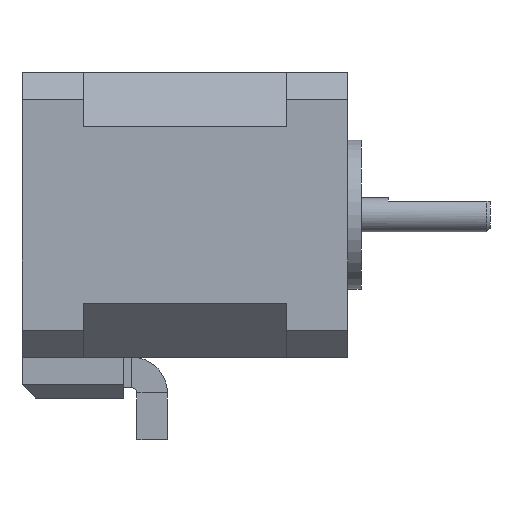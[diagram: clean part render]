
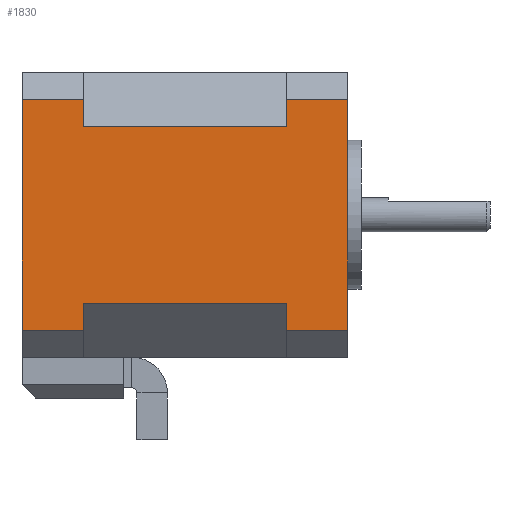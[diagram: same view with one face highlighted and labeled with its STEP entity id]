
A CAD part, left-side view. The second image highlights one B-rep face of the part: STEP entity #1830.
In plain terms, the highlighted planar face has unit normal (-1, 0, 0).
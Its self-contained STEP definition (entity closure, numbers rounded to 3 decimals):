
#45 = CARTESIAN_POINT ( 'NONE',  ( -21., 15., -13. ) ) ;
#81 = CARTESIAN_POINT ( 'NONE',  ( -21., 15., 17. ) ) ;
#102 = ORIENTED_EDGE ( 'NONE', *, *, #417, .T. ) ;
#110 = AXIS2_PLACEMENT_3D ( 'NONE', #280, #744, #2002 ) ;
#143 = CARTESIAN_POINT ( 'NONE',  ( -21., 15., 13. ) ) ;
#145 = VERTEX_POINT ( 'NONE', #339 ) ;
#173 = VECTOR ( 'NONE', #945, 1000. ) ;
#211 = CARTESIAN_POINT ( 'NONE',  ( -21., -15., -13. ) ) ;
#230 = CARTESIAN_POINT ( 'NONE',  ( -21., -24., -21. ) ) ;
#237 = VECTOR ( 'NONE', #1208, 1000. ) ;
#279 = EDGE_CURVE ( 'NONE', #898, #1161, #516, .T. ) ;
#280 = CARTESIAN_POINT ( 'NONE',  ( -21., 24., -21. ) ) ;
#286 = CARTESIAN_POINT ( 'NONE',  ( -21., -15., -21. ) ) ;
#339 = CARTESIAN_POINT ( 'NONE',  ( -21., -15., -17. ) ) ;
#358 = LINE ( 'NONE', #696, #1042 ) ;
#363 = CARTESIAN_POINT ( 'NONE',  ( -21., 24., 17. ) ) ;
#383 = EDGE_CURVE ( 'NONE', #1615, #1933, #1638, .T. ) ;
#407 = ORIENTED_EDGE ( 'NONE', *, *, #383, .T. ) ;
#417 = EDGE_CURVE ( 'NONE', #729, #1611, #594, .T. ) ;
#425 = FACE_OUTER_BOUND ( 'NONE', #1112, .T. ) ;
#440 = CARTESIAN_POINT ( 'NONE',  ( -21., -44.991, -17. ) ) ;
#451 = EDGE_CURVE ( 'NONE', #1240, #1027, #1542, .T. ) ;
#473 = LINE ( 'NONE', #1100, #173 ) ;
#499 = EDGE_CURVE ( 'NONE', #145, #1615, #1503, .T. ) ;
#516 = LINE ( 'NONE', #211, #1452 ) ;
#564 = EDGE_CURVE ( 'NONE', #1027, #729, #473, .T. ) ;
#594 = LINE ( 'NONE', #616, #237 ) ;
#600 = DIRECTION ( 'NONE',  ( 0., 0., 1. ) ) ;
#602 = CARTESIAN_POINT ( 'NONE',  ( -21., -15., 13. ) ) ;
#616 = CARTESIAN_POINT ( 'NONE',  ( -21., -44.991, 17. ) ) ;
#627 = VECTOR ( 'NONE', #600, 1000. ) ;
#633 = CARTESIAN_POINT ( 'NONE',  ( -21., 24., -17. ) ) ;
#634 = DIRECTION ( 'NONE',  ( 0., 0., 1. ) ) ;
#651 = CARTESIAN_POINT ( 'NONE',  ( -21., -15., -13. ) ) ;
#696 = CARTESIAN_POINT ( 'NONE',  ( -21., 15., -21. ) ) ;
#707 = DIRECTION ( 'NONE',  ( 0., 1., 0. ) ) ;
#728 = LINE ( 'NONE', #286, #627 ) ;
#729 = VERTEX_POINT ( 'NONE', #81 ) ;
#744 = DIRECTION ( 'NONE',  ( 1., 0., 0. ) ) ;
#764 = ORIENTED_EDGE ( 'NONE', *, *, #564, .T. ) ;
#779 = VECTOR ( 'NONE', #1188, 1000. ) ;
#807 = VERTEX_POINT ( 'NONE', #1664 ) ;
#829 = EDGE_CURVE ( 'NONE', #1240, #1715, #892, .T. ) ;
#844 = ORIENTED_EDGE ( 'NONE', *, *, #499, .T. ) ;
#881 = DIRECTION ( 'NONE',  ( 0., 1., 0. ) ) ;
#892 = LINE ( 'NONE', #1348, #1813 ) ;
#898 = VERTEX_POINT ( 'NONE', #651 ) ;
#911 = LINE ( 'NONE', #926, #1110 ) ;
#926 = CARTESIAN_POINT ( 'NONE',  ( -21., 24., -21. ) ) ;
#945 = DIRECTION ( 'NONE',  ( 0., 0., 1. ) ) ;
#1022 = CARTESIAN_POINT ( 'NONE',  ( -21., -24., 17. ) ) ;
#1027 = VERTEX_POINT ( 'NONE', #143 ) ;
#1042 = VECTOR ( 'NONE', #1154, 1000. ) ;
#1052 = CARTESIAN_POINT ( 'NONE',  ( -21., -9.343, -17. ) ) ;
#1100 = CARTESIAN_POINT ( 'NONE',  ( -21., 15., 13. ) ) ;
#1110 = VECTOR ( 'NONE', #1377, 1000. ) ;
#1112 = EDGE_LOOP ( 'NONE', ( #1493, #764, #102, #1930, #1405, #1876, #1505, #1129, #844, #407, #1123, #1676 ) ) ;
#1123 = ORIENTED_EDGE ( 'NONE', *, *, #1559, .F. ) ;
#1129 = ORIENTED_EDGE ( 'NONE', *, *, #1766, .F. ) ;
#1141 = CARTESIAN_POINT ( 'NONE',  ( -21., -24., -17. ) ) ;
#1154 = DIRECTION ( 'NONE',  ( 0., 0., 1. ) ) ;
#1161 = VERTEX_POINT ( 'NONE', #45 ) ;
#1186 = CARTESIAN_POINT ( 'NONE',  ( -21., -15., 17. ) ) ;
#1188 = DIRECTION ( 'NONE',  ( 0., -1., 0. ) ) ;
#1208 = DIRECTION ( 'NONE',  ( 0., 1., 0. ) ) ;
#1214 = LINE ( 'NONE', #440, #2019 ) ;
#1216 = DIRECTION ( 'NONE',  ( 0., 1., 0. ) ) ;
#1240 = VERTEX_POINT ( 'NONE', #1527 ) ;
#1287 = VECTOR ( 'NONE', #1216, 1000. ) ;
#1348 = CARTESIAN_POINT ( 'NONE',  ( -21., -15., 13. ) ) ;
#1374 = PLANE ( 'NONE',  #110 ) ;
#1377 = DIRECTION ( 'NONE',  ( 0., 0., 1. ) ) ;
#1405 = ORIENTED_EDGE ( 'NONE', *, *, #1798, .F. ) ;
#1428 = VECTOR ( 'NONE', #1463, 1000. ) ;
#1452 = VECTOR ( 'NONE', #707, 1000. ) ;
#1456 = VERTEX_POINT ( 'NONE', #633 ) ;
#1463 = DIRECTION ( 'NONE',  ( 0., -1., 0. ) ) ;
#1491 = DIRECTION ( 'NONE',  ( 0., 0., 1. ) ) ;
#1493 = ORIENTED_EDGE ( 'NONE', *, *, #451, .T. ) ;
#1503 = LINE ( 'NONE', #1052, #779 ) ;
#1505 = ORIENTED_EDGE ( 'NONE', *, *, #279, .F. ) ;
#1527 = CARTESIAN_POINT ( 'NONE',  ( -21., -15., 13. ) ) ;
#1542 = LINE ( 'NONE', #602, #1287 ) ;
#1559 = EDGE_CURVE ( 'NONE', #1715, #1933, #1953, .T. ) ;
#1607 = CARTESIAN_POINT ( 'NONE',  ( -21., -9.343, 17. ) ) ;
#1611 = VERTEX_POINT ( 'NONE', #363 ) ;
#1615 = VERTEX_POINT ( 'NONE', #1141 ) ;
#1634 = EDGE_CURVE ( 'NONE', #807, #1161, #358, .T. ) ;
#1638 = LINE ( 'NONE', #230, #1649 ) ;
#1649 = VECTOR ( 'NONE', #1491, 1000. ) ;
#1664 = CARTESIAN_POINT ( 'NONE',  ( -21., 15., -17. ) ) ;
#1676 = ORIENTED_EDGE ( 'NONE', *, *, #829, .F. ) ;
#1715 = VERTEX_POINT ( 'NONE', #1186 ) ;
#1717 = EDGE_CURVE ( 'NONE', #1456, #1611, #911, .T. ) ;
#1766 = EDGE_CURVE ( 'NONE', #145, #898, #728, .T. ) ;
#1798 = EDGE_CURVE ( 'NONE', #807, #1456, #1214, .T. ) ;
#1813 = VECTOR ( 'NONE', #634, 1000. ) ;
#1830 = ADVANCED_FACE ( 'NONE', ( #425 ), #1374, .F. ) ;
#1876 = ORIENTED_EDGE ( 'NONE', *, *, #1634, .T. ) ;
#1930 = ORIENTED_EDGE ( 'NONE', *, *, #1717, .F. ) ;
#1933 = VERTEX_POINT ( 'NONE', #1022 ) ;
#1953 = LINE ( 'NONE', #1607, #1428 ) ;
#2002 = DIRECTION ( 'NONE',  ( 0., 0., -1. ) ) ;
#2019 = VECTOR ( 'NONE', #881, 1000. ) ;
